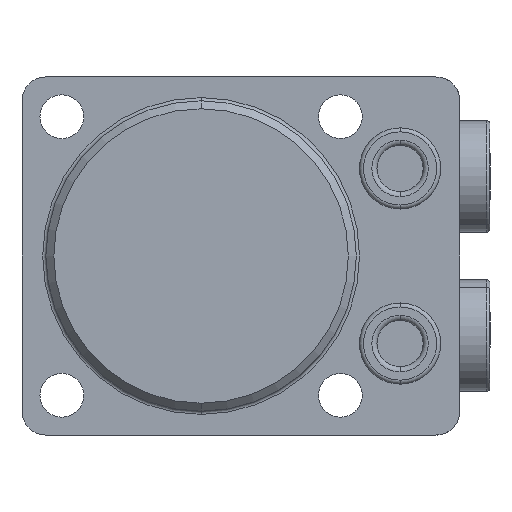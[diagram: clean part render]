
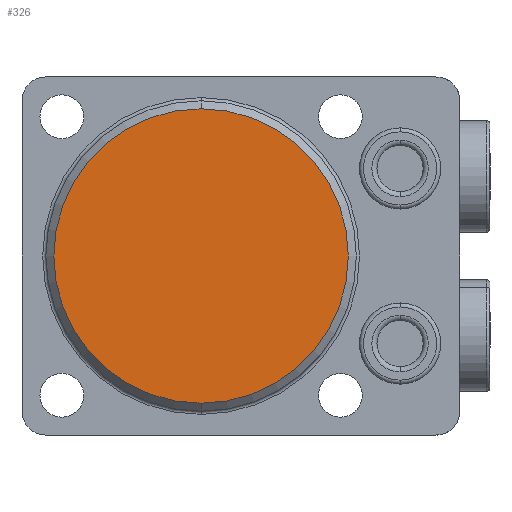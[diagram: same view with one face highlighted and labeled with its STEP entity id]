
A CAD part, front view. The second image highlights one B-rep face of the part: STEP entity #326.
In plain terms, the highlighted planar face has unit normal (0, -1, 0) as drawn and (0, 1, 0) by its records, which use the part's own axes.
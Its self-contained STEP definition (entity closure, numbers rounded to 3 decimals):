
#173=PLANE('',#2629);
#326=ADVANCED_FACE('',(#532),#173,.T.);
#532=FACE_OUTER_BOUND('',#677,.F.);
#677=EDGE_LOOP('',(#1203,#1204));
#868=CIRCLE('',#2593,18.5);
#890=CIRCLE('',#2628,18.5);
#1203=ORIENTED_EDGE('',*,*,#2044,.T.);
#1204=ORIENTED_EDGE('',*,*,#1983,.T.);
#1741=VERTEX_POINT('',#3877);
#1742=VERTEX_POINT('',#3878);
#1983=EDGE_CURVE('',#1741,#1742,#868,.T.);
#2044=EDGE_CURVE('',#1742,#1741,#890,.T.);
#2593=AXIS2_PLACEMENT_3D('',#3876,#3065,#3066);
#2628=AXIS2_PLACEMENT_3D('',#4006,#3169,#3170);
#2629=AXIS2_PLACEMENT_3D('',#4007,#3171,#3172);
#3065=DIRECTION('',(0.,-1.,0.));
#3066=DIRECTION('',(0.,0.,1.));
#3169=DIRECTION('',(0.,-1.,0.));
#3170=DIRECTION('',(0.,0.,1.));
#3171=DIRECTION('',(0.,1.,0.));
#3172=DIRECTION('',(0.,0.,1.));
#3876=CARTESIAN_POINT('',(0.,0.,0.));
#3877=CARTESIAN_POINT('',(0.,0.,-18.5));
#3878=CARTESIAN_POINT('',(0.,0.,18.5));
#4006=CARTESIAN_POINT('',(0.,0.,0.));
#4007=CARTESIAN_POINT('',(-22.5,0.,22.5));
